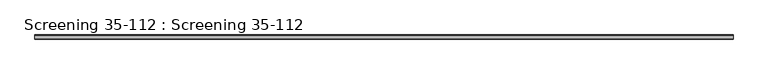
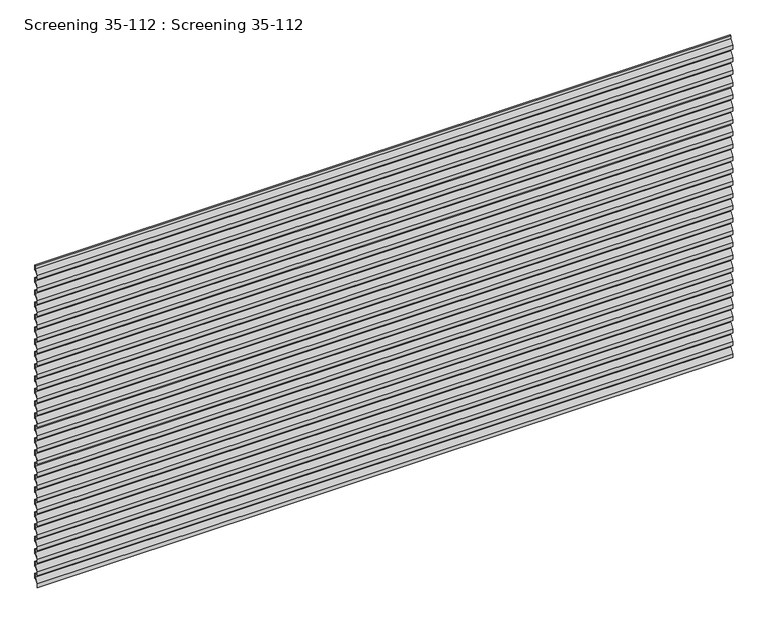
"""IFC4 building model written with IfcOpenShell, lengths in millimetres: plate geometry, Screening 35-112 : Screening 35-112."""

import ifcopenshell
import ifcopenshell.guid

model = None  # the IFC model being written
_history = None  # IfcOwnerHistory: only IFC2X3 demands one
_inside = {}  # id of a spatial element -> (the spatial element, [elements in it])
_under = {}  # id of a project, library or spatial element -> (it, [spatial elements below it])
_declared = {}  # id of a project -> (the project, [libraries it declares])
_typed = {}  # id of a type object -> (the type object, [elements of that type])
_made_of = {}  # id of a material, layer set ... -> (it, [elements and type objects made of it])


def new_model(schema):
    """Start an empty IFC model of exactly this schema.

    Asked for "IFC4X3", IfcOpenShell would pick the latest addendum, in which some entities
    have other attributes; the version numbers below select the first issue.
    IFC2X3 requires an IfcOwnerHistory on every rooted entity: one is made here for all.
    """
    global model, _history
    if schema == "IFC4X3":
        model = ifcopenshell.file(schema_version=(4, 3, 0, 0))
    else:
        model = ifcopenshell.file(schema=schema)
    _inside.clear()
    _under.clear()
    _declared.clear()
    _typed.clear()
    _made_of.clear()
    _history = None
    if model.schema == "IFC2X3":
        org = make("IfcOrganization", Name="unknown")
        user = make(
            "IfcPersonAndOrganization",
            ThePerson=make("IfcPerson", FamilyName="unknown"),
            TheOrganization=org,
        )
        app = make(
            "IfcApplication",
            ApplicationDeveloper=org,
            Version="unknown",
            ApplicationFullName="unknown",
            ApplicationIdentifier="unknown",
        )
        _history = make(
            "IfcOwnerHistory",
            OwningUser=user,
            OwningApplication=app,
            ChangeAction="ADDED",
            CreationDate=0,
        )
    return model


def make(cls, **values):
    """One entity of the class cls with the attributes given. An attribute that is None is left unset."""
    return model.create_entity(
        cls, **{name: value for name, value in values.items() if value is not None}
    )


def rooted(cls, **values):
    """An entity with a GlobalId (a new one), such as an element, a storey or a relation."""
    return make(cls, GlobalId=ifcopenshell.guid.new(), OwnerHistory=_history, **values)


def si_unit(unit_type, name, prefix=None):
    """IfcSIUnit, for example si_unit("LENGTHUNIT", "METRE", prefix="MILLI")."""
    return make("IfcSIUnit", UnitType=unit_type, Prefix=prefix, Name=name)


def assignment(units):
    """IfcUnitAssignment: the units of a project."""
    return None if units is None else make("IfcUnitAssignment", Units=units)


def point(xyz):
    """IfcCartesianPoint."""
    return None if xyz is None else make("IfcCartesianPoint", Coordinates=xyz)


def direction(xyz):
    """IfcDirection."""
    return None if xyz is None else make("IfcDirection", DirectionRatios=xyz)


def frame(location, z_axis=None, x_axis=None):
    """IfcAxis2Placement3D, a coordinate frame: its origin and axes. An axis left out is left unset."""
    return make(
        "IfcAxis2Placement3D",
        Location=point(location),
        Axis=direction(z_axis),
        RefDirection=direction(x_axis),
    )


def origin():
    """The frame at (0, 0, 0) with its axes left unset."""
    return frame((0.0, 0.0, 0.0))


def place(relative_to, where):
    """IfcLocalPlacement: puts the frame where relative to a parent placement (None: the world)."""
    return make(
        "IfcLocalPlacement", PlacementRelTo=relative_to, RelativePlacement=where
    )


def context(
    kind, dimensions, precision=None, world=None, true_north=None, identifier=None
):
    """IfcGeometricRepresentationContext, for example the 3D "Model" context."""
    return make(
        "IfcGeometricRepresentationContext",
        ContextIdentifier=identifier,
        ContextType=kind,
        CoordinateSpaceDimension=dimensions,
        Precision=precision,
        WorldCoordinateSystem=world,
        TrueNorth=true_north,
    )


def project(units=None, contexts=None):
    """IfcProject with its units and contexts."""
    return rooted(
        "IfcProject",
        Name="project",
        RepresentationContexts=contexts,
        UnitsInContext=assignment(units),
    )


def spatial(cls, under=None, at=None, **own):
    """A site, building, storey or space (cls), placed at a placement, below another one or the project."""
    s = rooted(cls, ObjectPlacement=at, **own)
    if under is not None:
        _under.setdefault(under.id(), (under, []))[1].append(s)
    return s


def polyline(points):
    """IfcPolyline through the points."""
    return make("IfcPolyline", Points=[point(p) for p in points])


def outline(outer, holes=None, kind="AREA"):
    """IfcArbitraryClosedProfileDef: a profile drawn as a closed curve; with holes, ...WithVoids."""
    if holes is None:
        return make("IfcArbitraryClosedProfileDef", ProfileType=kind, OuterCurve=outer)
    return make(
        "IfcArbitraryProfileDefWithVoids",
        ProfileType=kind,
        OuterCurve=outer,
        InnerCurves=holes,
    )


def extrude(swept, where, along, depth):
    """IfcExtrudedAreaSolid: the profile swept, set in the frame where, extruded along a direction by depth."""
    return make(
        "IfcExtrudedAreaSolid",
        SweptArea=swept,
        Position=where,
        ExtrudedDirection=direction(along),
        Depth=depth,
    )


def shape(context_of_items, identifier, shape_type, items):
    """IfcShapeRepresentation: the items that make up one representation, for example the "Body"."""
    return make(
        "IfcShapeRepresentation",
        ContextOfItems=context_of_items,
        RepresentationIdentifier=identifier,
        RepresentationType=shape_type,
        Items=items,
    )


def source(mapping_origin, context_of_items, identifier, shape_type, items):
    """IfcRepresentationMap: a shape defined once, which mapped items show again and again."""
    return make(
        "IfcRepresentationMap",
        MappingOrigin=mapping_origin,
        MappedRepresentation=shape(context_of_items, identifier, shape_type, items),
    )


def transform(
    local_origin,
    x_axis=None,
    y_axis=None,
    z_axis=None,
    scale=None,
    scale2=None,
    scale3=None,
    uniform=True,
):
    """IfcCartesianTransformationOperator3D, or its non-uniform kind. x_axis, y_axis, z_axis: its Axis1, 2, 3."""
    if uniform:
        return make(
            "IfcCartesianTransformationOperator3D",
            Axis1=direction(x_axis),
            Axis2=direction(y_axis),
            LocalOrigin=point(local_origin),
            Scale=scale,
            Axis3=direction(z_axis),
        )
    return make(
        "IfcCartesianTransformationOperator3DnonUniform",
        Axis1=direction(x_axis),
        Axis2=direction(y_axis),
        LocalOrigin=point(local_origin),
        Scale=scale,
        Axis3=direction(z_axis),
        Scale2=scale2,
        Scale3=scale3,
    )


def mapped(mapping_source, mapping_target):
    """IfcMappedItem: shows the shape of a source again, moved by a transform."""
    return make(
        "IfcMappedItem", MappingSource=mapping_source, MappingTarget=mapping_target
    )


def made_of(thing, what):
    """Note that an element or type object is made of a material, layer set ...; save() writes the relation."""
    if what is not None:
        _made_of.setdefault(what.id(), (what, []))[1].append(thing)
    return thing


def element(
    cls,
    number,
    at=None,
    inside=None,
    cuts=None,
    type_object=None,
    material=None,
    context=None,
    identifier="Body",
    shape_type=None,
    held_by="IfcProductDefinitionShape",
    body=None,
    shapes=None,
    **own,
):
    """One element of the class cls, such as IfcWall. Its Tag is "e" and its number.

    at: its placement. inside: the storey or other place that contains it. cuts: it is an
    opening in that element (IfcRelVoidsElement). A single representation is given by context,
    identifier, shape_type and body (its items); several are given by shapes. held_by: the class
    of the entity that holds the representations. save() writes the other relations.
    """
    e = rooted(cls, Tag="e%d" % number, ObjectPlacement=at, **own)
    if body is not None:
        shapes = [shape(context, identifier, shape_type, body)]
    if shapes is not None:
        e.Representation = make(held_by, Representations=shapes)
    if inside is not None:
        _inside.setdefault(inside.id(), (inside, []))[1].append(e)
    if cuts is not None:
        rooted(
            "IfcRelVoidsElement", RelatingBuildingElement=cuts, RelatedOpeningElement=e
        )
    if type_object is not None:
        _typed.setdefault(type_object.id(), (type_object, []))[1].append(e)
    return made_of(e, material)


def aggregate(whole, parts):
    """IfcRelAggregates: a whole, such as a stair, and the parts it consists of."""
    return rooted("IfcRelAggregates", RelatingObject=whole, RelatedObjects=parts)


def save(model, path):
    """Write the relations noted so far, then the file.

    IfcRelAggregates (storeys below a building ...), IfcRelContainedInSpatialStructure (elements
    in a storey), IfcRelDefinesByType, IfcRelAssociatesMaterial and IfcRelDeclares: one each for
    every whole, place, type object, material and project.
    """
    for whole, parts in _under.values():
        aggregate(whole, parts)
    for where, things in _inside.values():
        rooted(
            "IfcRelContainedInSpatialStructure",
            RelatedElements=things,
            RelatingStructure=where,
        )
    for kind, things in _typed.values():
        rooted("IfcRelDefinesByType", RelatedObjects=things, RelatingType=kind)
    for what, things in _made_of.values():
        rooted("IfcRelAssociatesMaterial", RelatedObjects=things, RelatingMaterial=what)
    for by, libraries in _declared.values():
        rooted("IfcRelDeclares", RelatingContext=by, RelatedDefinitions=libraries)
    model.write(path)


def screening_35_112_screening_35_112_fbb12f49(model_context):
    return source(origin(), model_context, "Body", "SweptSolid", [
        extrude(outline(polyline([(-34.9638304, 2824.6), (-34.9638304, 2860.6958995), (-4.35, 2904.4800402), (-4.35, 2931.6451224), (0.0, 2935.9298892), (0.0, 2889.1482493), (-13.0819089, 2889.1482493), (-33.4, 2860.0767062), (-33.4, 2824.6), (-34.9638304, 2824.6)])), frame((-3000.0, 0.0, 0.0), z_axis=(1.0, 0.0, 0.0), x_axis=(0.0, 1.0, 0.0)), (0.0, 0.0, 1.0), 6000.0),
        extrude(outline(polyline([(-34.9638304, 2712.1), (-34.9638304, 2748.1958995), (-4.35, 2791.9800402), (-4.35, 2819.1451224), (0.0, 2823.4298892), (0.0, 2776.6482493), (-13.0819089, 2776.6482493), (-33.4, 2747.5767062), (-33.4, 2712.1), (-34.9638304, 2712.1)])), frame((-3000.0, 0.0, 0.0), z_axis=(1.0, 0.0, 0.0), x_axis=(0.0, 1.0, 0.0)), (0.0, 0.0, 1.0), 6000.0),
        extrude(outline(polyline([(-34.9638304, 2599.6), (-34.9638304, 2635.6958995), (-4.35, 2679.4800402), (-4.35, 2706.6451224), (0.0, 2710.9298892), (0.0, 2664.1482493), (-13.0819089, 2664.1482493), (-33.4, 2635.0767062), (-33.4, 2599.6), (-34.9638304, 2599.6)])), frame((-3000.0, 0.0, 0.0), z_axis=(1.0, 0.0, 0.0), x_axis=(0.0, 1.0, 0.0)), (0.0, 0.0, 1.0), 6000.0),
        extrude(outline(polyline([(-34.9638304, 2487.1), (-34.9638304, 2523.1958995), (-4.35, 2566.9800402), (-4.35, 2594.1451224), (0.0, 2598.4298892), (0.0, 2551.6482493), (-13.0819089, 2551.6482493), (-33.4, 2522.5767062), (-33.4, 2487.1), (-34.9638304, 2487.1)])), frame((-3000.0, 0.0, 0.0), z_axis=(1.0, 0.0, 0.0), x_axis=(0.0, 1.0, 0.0)), (0.0, 0.0, 1.0), 6000.0),
        extrude(outline(polyline([(-34.9638304, 2374.6), (-34.9638304, 2410.6958995), (-4.35, 2454.4800402), (-4.35, 2481.6451224), (0.0, 2485.9298892), (0.0, 2439.1482493), (-13.0819089, 2439.1482493), (-33.4, 2410.0767062), (-33.4, 2374.6), (-34.9638304, 2374.6)])), frame((-3000.0, 0.0, 0.0), z_axis=(1.0, 0.0, 0.0), x_axis=(0.0, 1.0, 0.0)), (0.0, 0.0, 1.0), 6000.0),
        extrude(outline(polyline([(-34.9638304, 2262.1), (-34.9638304, 2298.1958995), (-4.35, 2341.9800402), (-4.35, 2369.1451224), (0.0, 2373.4298892), (0.0, 2326.6482493), (-13.0819089, 2326.6482493), (-33.4, 2297.5767062), (-33.4, 2262.1), (-34.9638304, 2262.1)])), frame((-3000.0, 0.0, 0.0), z_axis=(1.0, 0.0, 0.0), x_axis=(0.0, 1.0, 0.0)), (0.0, 0.0, 1.0), 6000.0),
        extrude(outline(polyline([(-34.9638304, 2149.6), (-34.9638304, 2185.6958995), (-4.35, 2229.4800402), (-4.35, 2256.6451224), (0.0, 2260.9298892), (0.0, 2214.1482493), (-13.0819089, 2214.1482493), (-33.4, 2185.0767062), (-33.4, 2149.6), (-34.9638304, 2149.6)])), frame((-3000.0, 0.0, 0.0), z_axis=(1.0, 0.0, 0.0), x_axis=(0.0, 1.0, 0.0)), (0.0, 0.0, 1.0), 6000.0),
        extrude(outline(polyline([(-34.9638304, 2037.1), (-34.9638304, 2073.1958995), (-4.35, 2116.9800402), (-4.35, 2144.1451224), (0.0, 2148.4298892), (0.0, 2101.6482493), (-13.0819089, 2101.6482493), (-33.4, 2072.5767062), (-33.4, 2037.1), (-34.9638304, 2037.1)])), frame((-3000.0, 0.0, 0.0), z_axis=(1.0, 0.0, 0.0), x_axis=(0.0, 1.0, 0.0)), (0.0, 0.0, 1.0), 6000.0),
        extrude(outline(polyline([(-34.9638304, 1924.6), (-34.9638304, 1960.6958995), (-4.35, 2004.4800402), (-4.35, 2031.6451224), (0.0, 2035.9298892), (0.0, 1989.1482493), (-13.0819089, 1989.1482493), (-33.4, 1960.0767062), (-33.4, 1924.6), (-34.9638304, 1924.6)])), frame((-3000.0, 0.0, 0.0), z_axis=(1.0, 0.0, 0.0), x_axis=(0.0, 1.0, 0.0)), (0.0, 0.0, 1.0), 6000.0),
        extrude(outline(polyline([(-34.9638304, 1812.1), (-34.9638304, 1848.1958995), (-4.35, 1891.9800402), (-4.35, 1919.1451224), (0.0, 1923.4298892), (0.0, 1876.6482493), (-13.0819089, 1876.6482493), (-33.4, 1847.5767062), (-33.4, 1812.1), (-34.9638304, 1812.1)])), frame((-3000.0, 0.0, 0.0), z_axis=(1.0, 0.0, 0.0), x_axis=(0.0, 1.0, 0.0)), (0.0, 0.0, 1.0), 6000.0),
        extrude(outline(polyline([(-34.9638304, 1699.6), (-34.9638304, 1735.6958995), (-4.35, 1779.4800402), (-4.35, 1806.6451224), (0.0, 1810.9298892), (0.0, 1764.1482493), (-13.0819089, 1764.1482493), (-33.4, 1735.0767062), (-33.4, 1699.6), (-34.9638304, 1699.6)])), frame((-3000.0, 0.0, 0.0), z_axis=(1.0, 0.0, 0.0), x_axis=(0.0, 1.0, 0.0)), (0.0, 0.0, 1.0), 6000.0),
        extrude(outline(polyline([(-34.9638304, 1587.1), (-34.9638304, 1623.1958995), (-4.35, 1666.9800402), (-4.35, 1694.1451224), (0.0, 1698.4298892), (0.0, 1651.6482493), (-13.0819089, 1651.6482493), (-33.4, 1622.5767062), (-33.4, 1587.1), (-34.9638304, 1587.1)])), frame((-3000.0, 0.0, 0.0), z_axis=(1.0, 0.0, 0.0), x_axis=(0.0, 1.0, 0.0)), (0.0, 0.0, 1.0), 6000.0),
        extrude(outline(polyline([(-34.9638304, 1474.6), (-34.9638304, 1510.6958995), (-4.35, 1554.4800402), (-4.35, 1581.6451224), (0.0, 1585.9298892), (0.0, 1539.1482493), (-13.0819089, 1539.1482493), (-33.4, 1510.0767062), (-33.4, 1474.6), (-34.9638304, 1474.6)])), frame((-3000.0, 0.0, 0.0), z_axis=(1.0, 0.0, 0.0), x_axis=(0.0, 1.0, 0.0)), (0.0, 0.0, 1.0), 6000.0),
        extrude(outline(polyline([(-34.9638304, 1362.1), (-34.9638304, 1398.1958995), (-4.35, 1441.9800402), (-4.35, 1469.1451224), (0.0, 1473.4298892), (0.0, 1426.6482493), (-13.0819089, 1426.6482493), (-33.4, 1397.5767062), (-33.4, 1362.1), (-34.9638304, 1362.1)])), frame((-3000.0, 0.0, 0.0), z_axis=(1.0, 0.0, 0.0), x_axis=(0.0, 1.0, 0.0)), (0.0, 0.0, 1.0), 6000.0),
        extrude(outline(polyline([(-34.9638304, 1249.6), (-34.9638304, 1285.6958995), (-4.35, 1329.4800402), (-4.35, 1356.6451224), (0.0, 1360.9298892), (0.0, 1314.1482493), (-13.0819089, 1314.1482493), (-33.4, 1285.0767062), (-33.4, 1249.6), (-34.9638304, 1249.6)])), frame((-3000.0, 0.0, 0.0), z_axis=(1.0, 0.0, 0.0), x_axis=(0.0, 1.0, 0.0)), (0.0, 0.0, 1.0), 6000.0),
        extrude(outline(polyline([(-34.9638304, 1137.1), (-34.9638304, 1173.1958995), (-4.35, 1216.9800402), (-4.35, 1244.1451224), (0.0, 1248.4298892), (0.0, 1201.6482493), (-13.0819089, 1201.6482493), (-33.4, 1172.5767062), (-33.4, 1137.1), (-34.9638304, 1137.1)])), frame((-3000.0, 0.0, 0.0), z_axis=(1.0, 0.0, 0.0), x_axis=(0.0, 1.0, 0.0)), (0.0, 0.0, 1.0), 6000.0),
        extrude(outline(polyline([(-34.9638304, 1024.6), (-34.9638304, 1060.6958995), (-4.35, 1104.4800402), (-4.35, 1131.6451224), (0.0, 1135.9298892), (0.0, 1089.1482493), (-13.0819089, 1089.1482493), (-33.4, 1060.0767062), (-33.4, 1024.6), (-34.9638304, 1024.6)])), frame((-3000.0, 0.0, 0.0), z_axis=(1.0, 0.0, 0.0), x_axis=(0.0, 1.0, 0.0)), (0.0, 0.0, 1.0), 6000.0),
        extrude(outline(polyline([(-34.9638304, 912.1), (-34.9638304, 948.1958995), (-4.35, 991.9800402), (-4.35, 1019.1451224), (0.0, 1023.4298892), (0.0, 976.6482493), (-13.0819089, 976.6482493), (-33.4, 947.5767062), (-33.4, 912.1), (-34.9638304, 912.1)])), frame((-3000.0, 0.0, 0.0), z_axis=(1.0, 0.0, 0.0), x_axis=(0.0, 1.0, 0.0)), (0.0, 0.0, 1.0), 6000.0),
        extrude(outline(polyline([(-34.9638304, 799.6), (-34.9638304, 835.6958995), (-4.35, 879.4800402), (-4.35, 906.6451224), (0.0, 910.9298892), (0.0, 864.1482493), (-13.0819089, 864.1482493), (-33.4, 835.0767062), (-33.4, 799.6), (-34.9638304, 799.6)])), frame((-3000.0, 0.0, 0.0), z_axis=(1.0, 0.0, 0.0), x_axis=(0.0, 1.0, 0.0)), (0.0, 0.0, 1.0), 6000.0),
        extrude(outline(polyline([(-34.9638304, 687.1), (-34.9638304, 723.1958995), (-4.35, 766.9800402), (-4.35, 794.1451224), (0.0, 798.4298892), (0.0, 751.6482493), (-13.0819089, 751.6482493), (-33.4, 722.5767062), (-33.4, 687.1), (-34.9638304, 687.1)])), frame((-3000.0, 0.0, 0.0), z_axis=(1.0, 0.0, 0.0), x_axis=(0.0, 1.0, 0.0)), (0.0, 0.0, 1.0), 6000.0),
        extrude(outline(polyline([(-34.9638304, 574.6), (-34.9638304, 610.6958995), (-4.35, 654.4800402), (-4.35, 681.6451224), (0.0, 685.9298892), (0.0, 639.1482493), (-13.0819089, 639.1482493), (-33.4, 610.0767062), (-33.4, 574.6), (-34.9638304, 574.6)])), frame((-3000.0, 0.0, 0.0), z_axis=(1.0, 0.0, 0.0), x_axis=(0.0, 1.0, 0.0)), (0.0, 0.0, 1.0), 6000.0),
        extrude(outline(polyline([(-34.9638304, 462.1), (-34.9638304, 498.1958995), (-4.35, 541.9800402), (-4.35, 569.1451224), (0.0, 573.4298892), (0.0, 526.6482493), (-13.0819089, 526.6482493), (-33.4, 497.5767062), (-33.4, 462.1), (-34.9638304, 462.1)])), frame((-3000.0, 0.0, 0.0), z_axis=(1.0, 0.0, 0.0), x_axis=(0.0, 1.0, 0.0)), (0.0, 0.0, 1.0), 6000.0),
        extrude(outline(polyline([(-34.9638304, 349.6), (-34.9638304, 385.6958995), (-4.35, 429.4800402), (-4.35, 456.6451224), (0.0, 460.9298892), (0.0, 414.1482493), (-13.0819089, 414.1482493), (-33.4, 385.0767062), (-33.4, 349.6), (-34.9638304, 349.6)])), frame((-3000.0, 0.0, 0.0), z_axis=(1.0, 0.0, 0.0), x_axis=(0.0, 1.0, 0.0)), (0.0, 0.0, 1.0), 6000.0),
        extrude(outline(polyline([(-34.9638304, 237.1), (-34.9638304, 273.1958995), (-4.35, 316.9800402), (-4.35, 344.1451224), (0.0, 348.4298892), (0.0, 301.6482493), (-13.0819089, 301.6482493), (-33.4, 272.5767062), (-33.4, 237.1), (-34.9638304, 237.1)])), frame((-3000.0, 0.0, 0.0), z_axis=(1.0, 0.0, 0.0), x_axis=(0.0, 1.0, 0.0)), (0.0, 0.0, 1.0), 6000.0),
        extrude(outline(polyline([(-34.9638304, 124.6), (-34.9638304, 160.6958995), (-4.35, 204.4800402), (-4.35, 231.6451224), (0.0, 235.9298892), (0.0, 189.1482493), (-13.0819089, 189.1482493), (-33.4, 160.0767062), (-33.4, 124.6), (-34.9638304, 124.6)])), frame((-3000.0, 0.0, 0.0), z_axis=(1.0, 0.0, 0.0), x_axis=(0.0, 1.0, 0.0)), (0.0, 0.0, 1.0), 6000.0),
        extrude(outline(polyline([(-34.9638304, 12.1), (-34.9638304, 48.1958995), (-4.35, 91.9800402), (-4.35, 119.1451224), (0.0, 123.4298892), (0.0, 76.6482493), (-13.0819089, 76.6482493), (-33.4, 47.5767062), (-33.4, 12.1), (-34.9638304, 12.1)])), frame((-3000.0, 0.0, 0.0), z_axis=(1.0, 0.0, 0.0), x_axis=(0.0, 1.0, 0.0)), (0.0, 0.0, 1.0), 6000.0),
    ])


if __name__ == "__main__":
    model = new_model("IFC4")
    model_context = context("Model", 3, world=origin())
    ifc_project = project(units=[si_unit("LENGTHUNIT", "METRE", prefix="MILLI")], contexts=[model_context])
    site = spatial("IfcSite", under=ifc_project)
    building = spatial("IfcBuilding", under=site)
    placement = place(None, origin())
    screening_35_112_screening_35_112_shape = screening_35_112_screening_35_112_fbb12f49(model_context)
    element("IfcPlate", 1, ObjectType="Screening 35-112 : Screening 35-112", at=placement, inside=building, context=model_context, shape_type="MappedRepresentation", body=[
        mapped(screening_35_112_screening_35_112_shape, transform((0.0, 0.0, 0.0), x_axis=(1.0, 0.0, 0.0), y_axis=(0.0, 1.0, 0.0), z_axis=(0.0, 0.0, 1.0))),
    ])
    save(model, "model.ifc")
